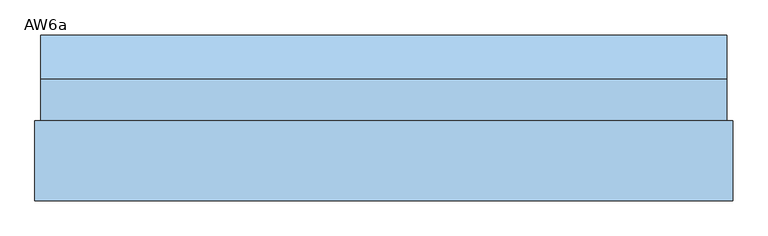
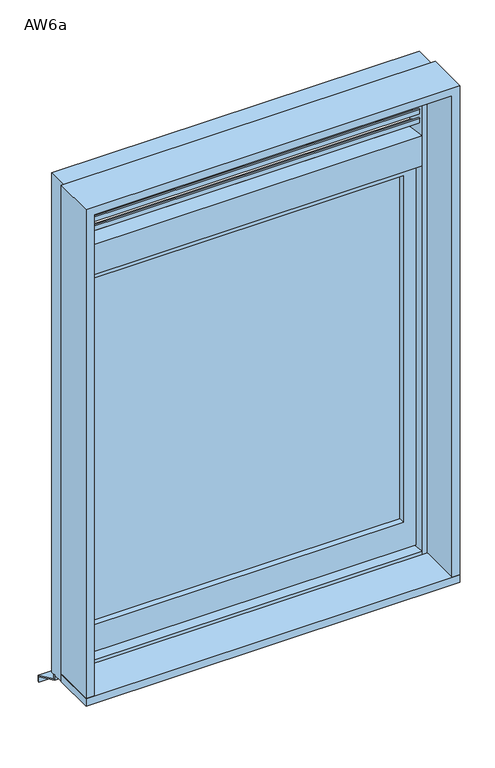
"""IFC4 building model written with IfcOpenShell, lengths in millimetres: window geometry, 営_段窓_縦辷出し/ガラリ : AW6a."""

from ifc_helpers import new_model, si_unit, frame, origin, place, context, project, spatial, polyline, outline, extrude, source, transform, mapped, element, save


def aw6a_a2a86f3e(model_context):
    return source(origin(), model_context, "Body", "SweptSolid", [
        extrude(outline(polyline([(20.0, 2623.2493654), (20.0, 2605.0), (15.0, 2605.0), (15.0, 2620.0), (-30.0, 2640.0), (-30.0, 2655.0), (-25.0, 2655.0), (-25.0, 2643.2493654), (20.0, 2623.2493654)])), frame((-550.0, 0.0, 0.0), z_axis=(1.0, 0.0, 0.0), x_axis=(0.0, 1.0, 0.0)), (0.0, 0.0, 1.0), 1100.0),
        extrude(outline(polyline([(20.0, 2593.2493654), (20.0, 2575.0), (15.0, 2575.0), (15.0, 2590.0), (-30.0, 2610.0), (-30.0, 2625.0), (-25.0, 2625.0), (-25.0, 2613.2493654), (20.0, 2593.2493654)])), frame((-550.0, 0.0, 0.0), z_axis=(1.0, 0.0, 0.0), x_axis=(0.0, 1.0, 0.0)), (0.0, 0.0, 1.0), 1100.0),
        extrude(outline(polyline([(20.0, 2563.2493654), (20.0, 2545.0), (15.0, 2545.0), (15.0, 2560.0), (-30.0, 2580.0), (-30.0, 2595.0), (-25.0, 2595.0), (-25.0, 2583.2493654), (20.0, 2563.2493654)])), frame((-550.0, 0.0, 0.0), z_axis=(1.0, 0.0, 0.0), x_axis=(0.0, 1.0, 0.0)), (0.0, 0.0, 1.0), 1100.0),
        extrude(outline(polyline([(20.0, 2533.2493654), (20.0, 2515.0), (15.0, 2515.0), (15.0, 2530.0), (-30.0, 2550.0), (-30.0, 2565.0), (-25.0, 2565.0), (-25.0, 2553.2493654), (20.0, 2533.2493654)])), frame((-550.0, 0.0, 0.0), z_axis=(1.0, 0.0, 0.0), x_axis=(0.0, 1.0, 0.0)), (0.0, 0.0, 1.0), 1100.0),
        extrude(outline(polyline([(20.0, 2653.2493654), (20.0, 2635.0), (15.0, 2635.0), (15.0, 2650.0), (-30.0, 2670.0), (-30.0, 2685.0), (-25.0, 2685.0), (-25.0, 2673.2493654), (20.0, 2653.2493654)])), frame((-550.0, 0.0, 0.0), z_axis=(1.0, 0.0, 0.0), x_axis=(0.0, 1.0, 0.0)), (0.0, 0.0, 1.0), 1100.0),
        extrude(outline(polyline([(20.0, 2503.2493654), (20.0, 2485.0), (15.0, 2485.0), (15.0, 2500.0), (-30.0, 2520.0), (-30.0, 2535.0), (-25.0, 2535.0), (-25.0, 2523.2493654), (20.0, 2503.2493654)])), frame((-550.0, 0.0, 0.0), z_axis=(1.0, 0.0, 0.0), x_axis=(0.0, 1.0, 0.0)), (0.0, 0.0, 1.0), 1100.0),
        extrude(outline(polyline([(510.0, 10.0), (-510.0, 10.0), (-510.0, 15.0), (510.0, 15.0), (510.0, 10.0)])), frame((0.0, 0.0, 1190.0), z_axis=(0.0, 0.0, 1.0), x_axis=(1.0, 0.0, 0.0)), (0.0, 0.0, 1.0), 1155.0),
        extrude(outline(polyline([(2385.0, 550.0), (2385.0, -550.0), (1100.0, -550.0), (1100.0, 550.0), (2385.0, 550.0)]), holes=[polyline([(2345.0, 510.0), (1190.0, 510.0), (1190.0, -510.0), (2345.0, -510.0), (2345.0, 510.0)])]), frame((0.0, -10.0, 0.0), z_axis=(0.0, 1.0, 0.0), x_axis=(0.0, 0.0, 1.0)), (0.0, 0.0, 1.0), 30.0),
        extrude(outline(polyline([(590.0, -180.0), (-590.0, -180.0), (-590.0, -45.0), (590.0, -45.0), (590.0, -180.0)])), frame((0.0, 0.0, 1065.0), z_axis=(0.0, 0.0, 1.0), x_axis=(1.0, 0.0, 0.0)), (0.0, 0.0, 1.0), 25.0),
        extrude(outline(polyline([(15.0, 1035.0), (100.0, 995.0), (100.0, 975.0), (95.0014518, 975.0), (95.0014518, 991.8262891), (10.0, 1031.8269723), (10.0, 1050.0), (15.0, 1050.0), (15.0, 1035.0)])), frame((-580.0, 0.0, 0.0), z_axis=(1.0, 0.0, 0.0), x_axis=(0.0, 1.0, 0.0)), (0.0, 0.0, 1.0), 1160.0),
        extrude(outline(polyline([(1065.0, -590.0), (1065.0, -565.0), (2695.0, -565.0), (2695.0, 565.0), (1065.0, 565.0), (1065.0, 590.0), (2720.0, 590.0), (2720.0, -590.0), (1065.0, -590.0)])), frame((0.0, -180.0, 0.0), z_axis=(0.0, 1.0, 0.0), x_axis=(0.0, 0.0, 1.0)), (0.0, 0.0, 1.0), 135.0),
        extrude(outline(polyline([(1050.0, -580.0), (1050.0, -550.0), (2685.0, -550.0), (2685.0, 550.0), (1050.0, 550.0), (1050.0, 580.0), (2715.0, 580.0), (2715.0, -580.0), (1050.0, -580.0)])), frame((0.0, -45.0, 0.0), z_axis=(0.0, 1.0, 0.0), x_axis=(0.0, 0.0, 1.0)), (0.0, 0.0, 1.0), 70.0),
        extrude(outline(polyline([(-45.0, 1050.0), (-45.0, 1100.0), (25.0, 1090.6666667), (25.0, 1050.0), (-45.0, 1050.0)])), frame((-550.0, 0.0, 0.0), z_axis=(1.0, 0.0, 0.0), x_axis=(0.0, 1.0, 0.0)), (0.0, 0.0, 1.0), 1100.0),
        extrude(outline(polyline([(25.0, 2385.0), (-45.0, 2385.0), (-45.0, 2485.0), (25.0, 2475.0), (25.0, 2385.0)])), frame((-550.0, 0.0, 0.0), z_axis=(1.0, 0.0, 0.0), x_axis=(0.0, 1.0, 0.0)), (0.0, 0.0, 1.0), 1100.0),
    ])


if __name__ == "__main__":
    model = new_model("IFC4")
    model_context = context("Model", 3, world=origin())
    ifc_project = project(units=[si_unit("LENGTHUNIT", "METRE", prefix="MILLI")], contexts=[model_context])
    site = spatial("IfcSite", under=ifc_project)
    building = spatial("IfcBuilding", under=site)
    placement = place(None, origin())
    aw6a_shape = aw6a_a2a86f3e(model_context)
    element("IfcWindow", 1, ObjectType="営_段窓_縦辷出し/ガラリ : AW6a", at=placement, inside=building, context=model_context, shape_type="MappedRepresentation", body=[
        mapped(aw6a_shape, transform((0.0, 0.0, 0.0), x_axis=(1.0, 0.0, 0.0), y_axis=(0.0, 1.0, 0.0), z_axis=(0.0, 0.0, 1.0))),
    ])
    save(model, "model.ifc")
